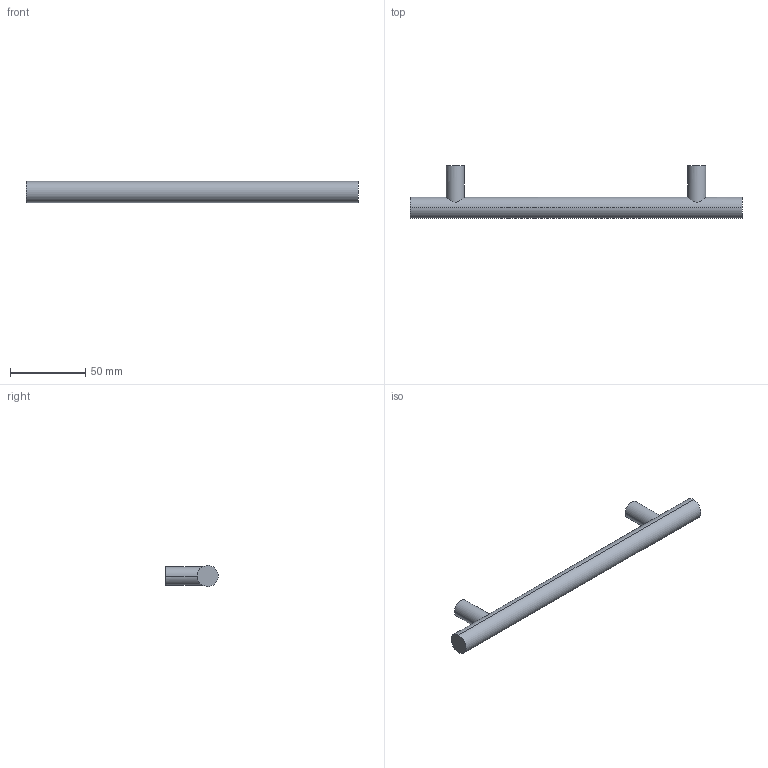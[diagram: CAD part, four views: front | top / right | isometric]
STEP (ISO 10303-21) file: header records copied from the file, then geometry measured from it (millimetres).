
FILE_DESCRIPTION( ( '' ), '1' );
FILE_NAME( 'D:/1.AUTOCAD EXPORT/Group 10/sheet_10_1/9071048.stp', '2013-10-21T08:32:41', ( '' ), ( '' ), ' ', ' ', ' ' );
FILE_SCHEMA( ( 'automotive_design' ) );
Length unit declared in the file: millimetre
Products named in the file (1): 1
Bounding box: 220 x 35 x 14 mm (x, y, z)
Volume: 38478.4 mm3; surface area: 11955.8 mm2
Topology: 1 solids, 1 shells, 16 faces, 32 edges, 22 vertices
Faces by surface type: cylinder 10, plane 6
Entity records: 972 total; most frequent: CARTESIAN_POINT 205, DIRECTION 76, STYLED_ITEM 71, PRESENTATION_STYLE_ASSIGNMENT 71, COLOUR_RGB 71, ORIENTED_EDGE 64, AXIS2_PLACEMENT_3D 33, EDGE_CURVE 32
